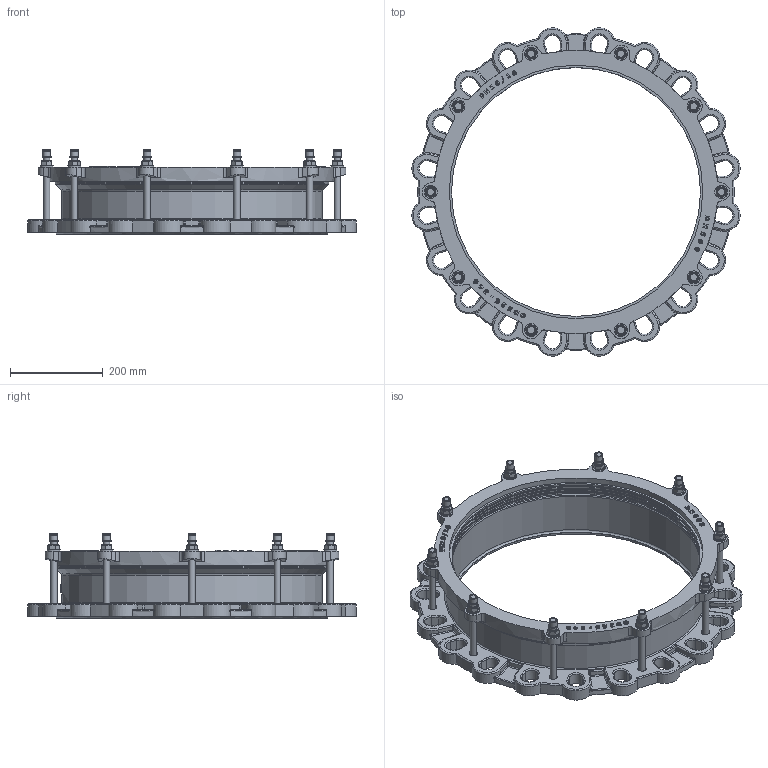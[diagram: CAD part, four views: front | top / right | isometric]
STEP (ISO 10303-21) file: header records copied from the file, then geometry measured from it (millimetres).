
FILE_DESCRIPTION(('STEP AP203'), '1');
FILE_NAME('Ôëàíöåâûé àäàïòåð', '', ('UNSPECIFIED'), ('UNSPECIFIED'), 'C3D Converter', 'C3D Toolkit', '');
FILE_SCHEMA(('CONFIG_CONTROL_DESIGN'));
Length unit declared in the file: millimetre
Assembly tree (43 placements, depth 2):
  (unnamed)
    (unnamed)
    (unnamed)  x10
    (unnamed)  x10
    (unnamed)  x10
    (unnamed)  x10
    (unnamed)
    (unnamed)
Bounding box: 706.91 x 706.91 x 181.4 mm (x, y, z)
Volume: 6824919.6 mm3; surface area: 1389106.8 mm2
Topology: 43 solids, 43 shells, 1852 faces, 4668 edges, 2817 vertices
Faces by surface type: plane 570, cylinder 517, extrusion 370, torus 181, bspline 80, cone 74, sphere 60
Full cylindrical faces by diameter (mm): 14 x30, 15 x10, 16 x20, 16.173 x1, 16.8 x10, 19.6 x10, 28 x10, 536 x5, 541 x3, 546 x2, 554 x1, 562 x2, 590 x1, 594 x2, 610 x1
Entity records: 68047 total; most frequent: CARTESIAN_POINT 28022, ORIENTED_EDGE 7444, DIRECTION 6405, EDGE_CURVE 3722, VERTEX_POINT 2337, AXIS2_PLACEMENT_3D 2254, VECTOR 1897, EDGE_LOOP 1693
